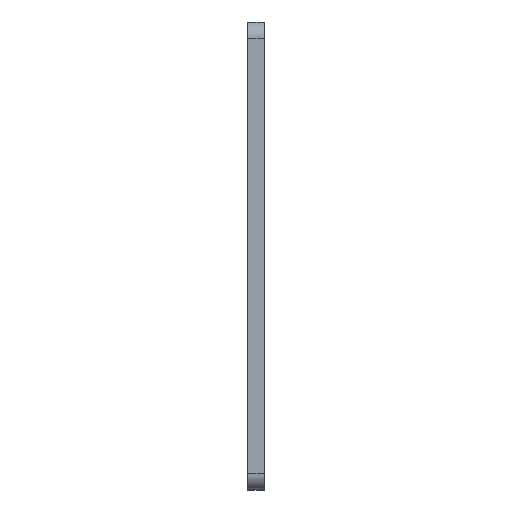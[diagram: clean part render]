
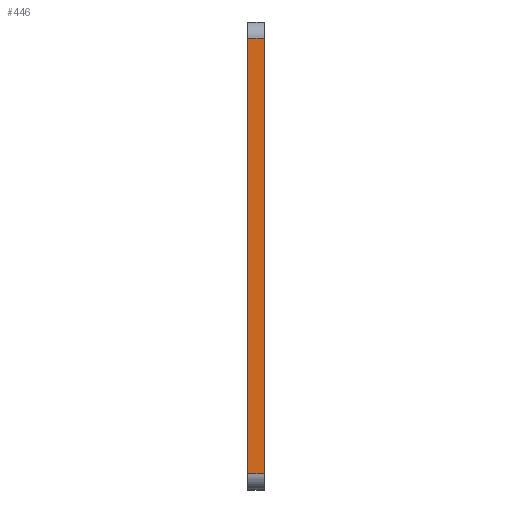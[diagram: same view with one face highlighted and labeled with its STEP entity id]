
A CAD part, left-side view. The second image highlights one B-rep face of the part: STEP entity #446.
In plain terms, the highlighted planar face has unit normal (-1, 0, 0).
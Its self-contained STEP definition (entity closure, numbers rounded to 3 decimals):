
#47 = VERTEX_POINT ( 'NONE', #53 ) ;
#49 = DIRECTION ( 'NONE',  ( 0., 0., 1. ) ) ;
#53 = CARTESIAN_POINT ( 'NONE',  ( -43., 0., 62.5 ) ) ;
#62 = ORIENTED_EDGE ( 'NONE', *, *, #802, .F. ) ;
#65 = DIRECTION ( 'NONE',  ( 0., 0., 1. ) ) ;
#75 = CARTESIAN_POINT ( 'NONE',  ( -43., 0., -17.5 ) ) ;
#85 = VECTOR ( 'NONE', #679, 1000. ) ;
#127 = EDGE_CURVE ( 'NONE', #47, #648, #176, .T. ) ;
#143 = DIRECTION ( 'NONE',  ( 0., 1., 0. ) ) ;
#174 = FACE_OUTER_BOUND ( 'NONE', #188, .T. ) ;
#176 = LINE ( 'NONE', #211, #366 ) ;
#185 = CARTESIAN_POINT ( 'NONE',  ( -43., 0., -17.5 ) ) ;
#188 = EDGE_LOOP ( 'NONE', ( #195, #775, #62, #520 ) ) ;
#189 = VERTEX_POINT ( 'NONE', #75 ) ;
#195 = ORIENTED_EDGE ( 'NONE', *, *, #368, .T. ) ;
#211 = CARTESIAN_POINT ( 'NONE',  ( -43., 0., 62.5 ) ) ;
#217 = LINE ( 'NONE', #791, #574 ) ;
#266 = LINE ( 'NONE', #185, #85 ) ;
#305 = EDGE_CURVE ( 'NONE', #307, #189, #266, .T. ) ;
#307 = VERTEX_POINT ( 'NONE', #535 ) ;
#308 = DIRECTION ( 'NONE',  ( 0., 0., 1. ) ) ;
#358 = CARTESIAN_POINT ( 'NONE',  ( -43., 3., 62.5 ) ) ;
#366 = VECTOR ( 'NONE', #143, 1000. ) ;
#368 = EDGE_CURVE ( 'NONE', #189, #47, #217, .T. ) ;
#440 = PLANE ( 'NONE',  #676 ) ;
#446 = ADVANCED_FACE ( 'NONE', ( #174 ), #440, .T. ) ;
#520 = ORIENTED_EDGE ( 'NONE', *, *, #305, .T. ) ;
#535 = CARTESIAN_POINT ( 'NONE',  ( -43., 3., -17.5 ) ) ;
#574 = VECTOR ( 'NONE', #49, 1000. ) ;
#648 = VERTEX_POINT ( 'NONE', #358 ) ;
#665 = CARTESIAN_POINT ( 'NONE',  ( -43., 0., -20.5 ) ) ;
#676 = AXIS2_PLACEMENT_3D ( 'NONE', #665, #726, #308 ) ;
#679 = DIRECTION ( 'NONE',  ( 0., -1., 0. ) ) ;
#688 = CARTESIAN_POINT ( 'NONE',  ( -43., 3., -20.5 ) ) ;
#726 = DIRECTION ( 'NONE',  ( -1., 0., 0. ) ) ;
#775 = ORIENTED_EDGE ( 'NONE', *, *, #127, .T. ) ;
#791 = CARTESIAN_POINT ( 'NONE',  ( -43., 0., -20.5 ) ) ;
#802 = EDGE_CURVE ( 'NONE', #307, #648, #851, .T. ) ;
#814 = VECTOR ( 'NONE', #65, 1000. ) ;
#851 = LINE ( 'NONE', #688, #814 ) ;
